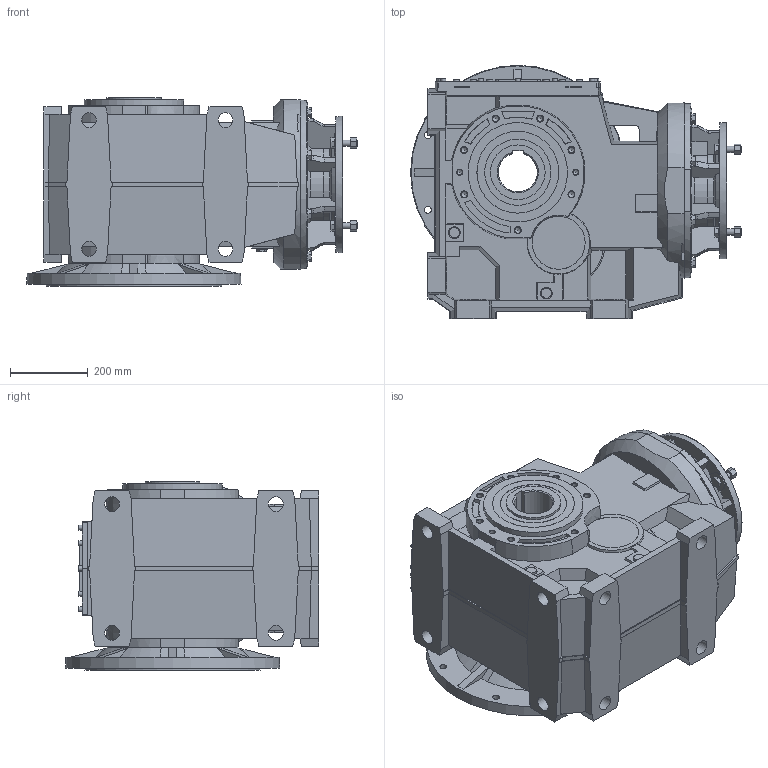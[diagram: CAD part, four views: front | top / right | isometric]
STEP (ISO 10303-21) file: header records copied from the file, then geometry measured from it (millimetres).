
FILE_DESCRIPTION(/* description */ ('STEP AP203'),/* implementation_level */ '2;1');
FILE_NAME(/* name */ 'B163UC160_B51002200000NO----_---------------',/* time_stamp */ '2025-12-16T08:24:22+01:00',/* author */ ('License CC BY-ND 4.0'),/* organization */ ('CADENAS'),/* preprocessor_version */ 'ST-DEVELOPER v20',/* originating_system */ 'PARTsolutions',/* authorisation */ ' ');
FILE_SCHEMA (('CONFIG_CONTROL_DESIGN'));
Length unit declared in the file: millimetre
Products named in the file (6): B163UC160 B51002200000NO----(---------------); 163-U-140; BFU163FB; C-100; 163-B-350x42(160 B51); B163-350x42
Assembly tree (5 placements, depth 2):
  B163UC160 B51002200000NO----(---------------)
    163-U-140
    BFU163FB
    C-100
    163-B-350x42(160 B51)
    B163-350x42
Bounding box: 848.5 x 650 x 483.5 mm (x, y, z)
Volume: 130389844.8 mm3; surface area: 3773220.5 mm2
Topology: 5 solids, 5 shells, 1065 faces, 2790 edges, 1839 vertices
Faces by surface type: plane 737, cylinder 165, cone 162, torus 1
Full cylindrical faces by diameter (mm): 9.338 x3, 13 x16, 14 x6, 15.294 x14, 16 x8, 18 x8, 26 x3, 27 x7, 28 x2, 30 x12, 38 x8, 62 x1, 65 x1, 135.7 x2, 140 x2, 170 x2, 209.76 x2, 250 x1, 255 x3, 350 x1, 450 x1
Entity records: 32038 total; most frequent: CARTESIAN_POINT 6497, ORIENTED_EDGE 5174, DIRECTION 5042, EDGE_CURVE 2587, VERTEX_POINT 1807, AXIS2_PLACEMENT_3D 1708, LINE 1626, VECTOR 1626
